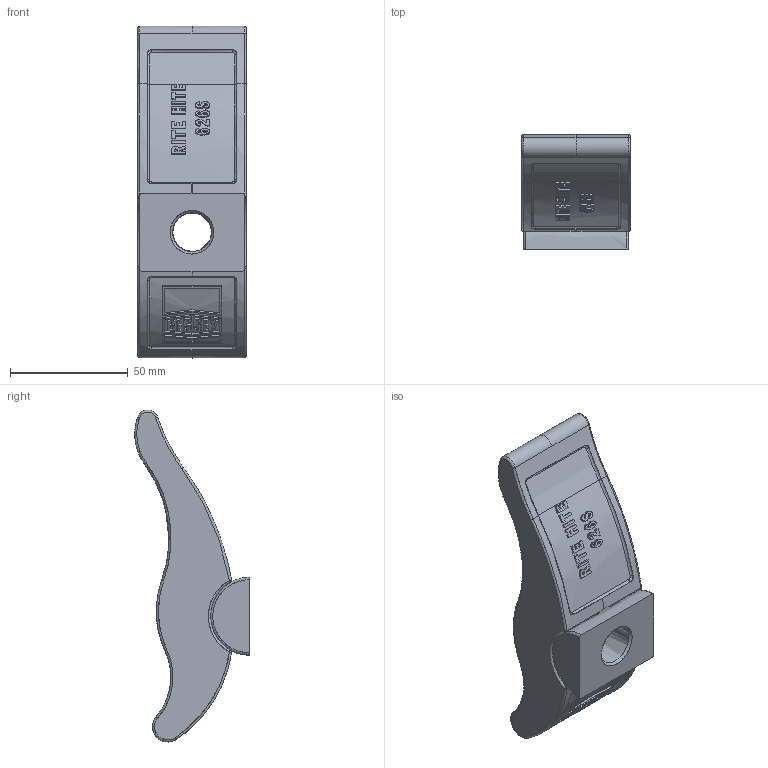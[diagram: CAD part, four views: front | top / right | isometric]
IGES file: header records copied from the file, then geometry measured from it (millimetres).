
Start section: ZWSOFT
Global section: file name: 626S.igs; native system: ZW3D; preprocessor: 1.0; author: ZW3D; organization: ZWSOFT; date: 121122.100246; units: millimetre
Bounding box: 46 x 48.67 x 140.84 mm (x, y, z)
Surface area: 27908.8 mm2 (no closed solid volume)
Topology: 0 solids, 0 shells, 740 faces, 4727 edges, 5291 vertices
Faces by surface type: bspline 740
